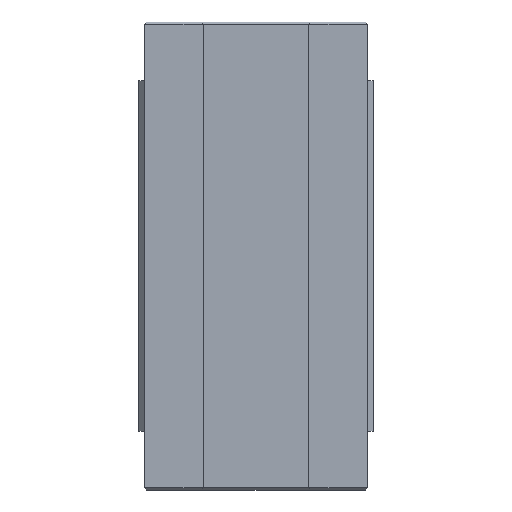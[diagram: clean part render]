
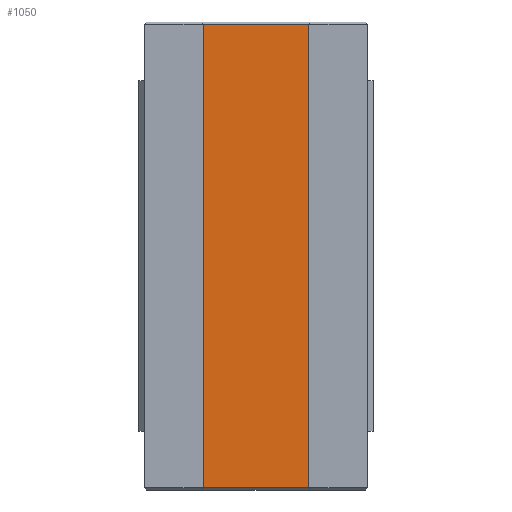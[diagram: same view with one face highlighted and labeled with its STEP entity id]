
A CAD part, front view. The second image highlights one B-rep face of the part: STEP entity #1050.
In plain terms, the highlighted planar face has unit normal (0, -1, 0).
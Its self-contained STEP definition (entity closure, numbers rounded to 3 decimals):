
#72=FACE_OUTER_BOUND('',#134,.T.);
#134=EDGE_LOOP('',(#745,#746,#747,#748));
#215=LINE('',#1546,#347);
#224=LINE('',#1564,#356);
#226=LINE('',#1568,#358);
#227=LINE('',#1569,#359);
#347=VECTOR('',#1247,10.);
#356=VECTOR('',#1262,10.);
#358=VECTOR('',#1266,10.);
#359=VECTOR('',#1267,10.);
#454=VERTEX_POINT('',#1494);
#469=VERTEX_POINT('',#1540);
#476=VERTEX_POINT('',#1563);
#477=VERTEX_POINT('',#1567);
#571=EDGE_CURVE('',#454,#469,#215,.T.);
#580=EDGE_CURVE('',#476,#469,#224,.T.);
#582=EDGE_CURVE('',#477,#454,#226,.T.);
#583=EDGE_CURVE('',#476,#477,#227,.T.);
#745=ORIENTED_EDGE('',*,*,#571,.F.);
#746=ORIENTED_EDGE('',*,*,#582,.F.);
#747=ORIENTED_EDGE('',*,*,#583,.F.);
#748=ORIENTED_EDGE('',*,*,#580,.T.);
#1000=PLANE('',#1132);
#1050=ADVANCED_FACE('',(#72),#1000,.T.);
#1132=AXIS2_PLACEMENT_3D('',#1566,#1264,#1265);
#1247=DIRECTION('',(1.,0.,0.));
#1262=DIRECTION('',(0.,0.,1.));
#1264=DIRECTION('center_axis',(0.,-1.,0.));
#1265=DIRECTION('ref_axis',(1.,0.,0.));
#1266=DIRECTION('',(0.,0.,1.));
#1267=DIRECTION('',(-1.,0.,0.));
#1494=CARTESIAN_POINT('',(-4.5,6.5,19.75));
#1540=CARTESIAN_POINT('',(4.5,6.5,19.75));
#1546=CARTESIAN_POINT('',(-2.25,6.5,19.75));
#1563=CARTESIAN_POINT('',(4.5,6.5,-19.75));
#1564=CARTESIAN_POINT('',(4.5,6.5,0.));
#1566=CARTESIAN_POINT('Origin',(-4.5,6.5,0.));
#1567=CARTESIAN_POINT('',(-4.5,6.5,-19.75));
#1568=CARTESIAN_POINT('',(-4.5,6.5,0.));
#1569=CARTESIAN_POINT('',(-2.25,6.5,-19.75));
